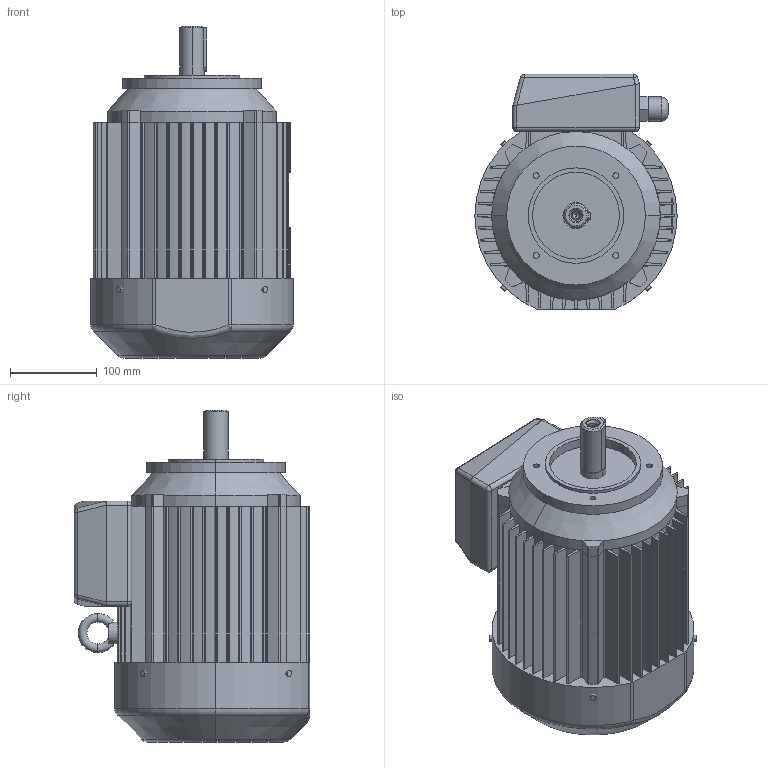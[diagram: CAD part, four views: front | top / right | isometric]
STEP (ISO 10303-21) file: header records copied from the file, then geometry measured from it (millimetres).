
FILE_DESCRIPTION (( 'STEP AP203' ), '1' );
FILE_NAME ('SKg 112M-B14-C2.STEP', '2010-02-09T12:35:05', ( 'INDUKTA' ), ( 'CANTONI MOTOR' ), 'SwSTEP 2.0', 'SolidWorks 2003064', '' );
FILE_SCHEMA (( 'CONFIG_CONTROL_DESIGN' ));
Length unit declared in the file: millimetre
Products named in the file (1): SKg 112M-B14-C2
Bounding box: 233 x 271 x 382.5 mm (x, y, z)
Volume: 11667866.5 mm3; surface area: 697860 mm2
Topology: 12 solids, 12 shells, 537 faces, 1436 edges, 923 vertices
Faces by surface type: plane 254, cylinder 203, bspline 43, cone 14, torus 13, sphere 10
Entity records: 20447 total; most frequent: CARTESIAN_POINT 7102, ORIENTED_EDGE 2848, DIRECTION 2692, EDGE_CURVE 1424, VERTEX_POINT 923, AXIS2_PLACEMENT_3D 912, LINE 868, VECTOR 868
